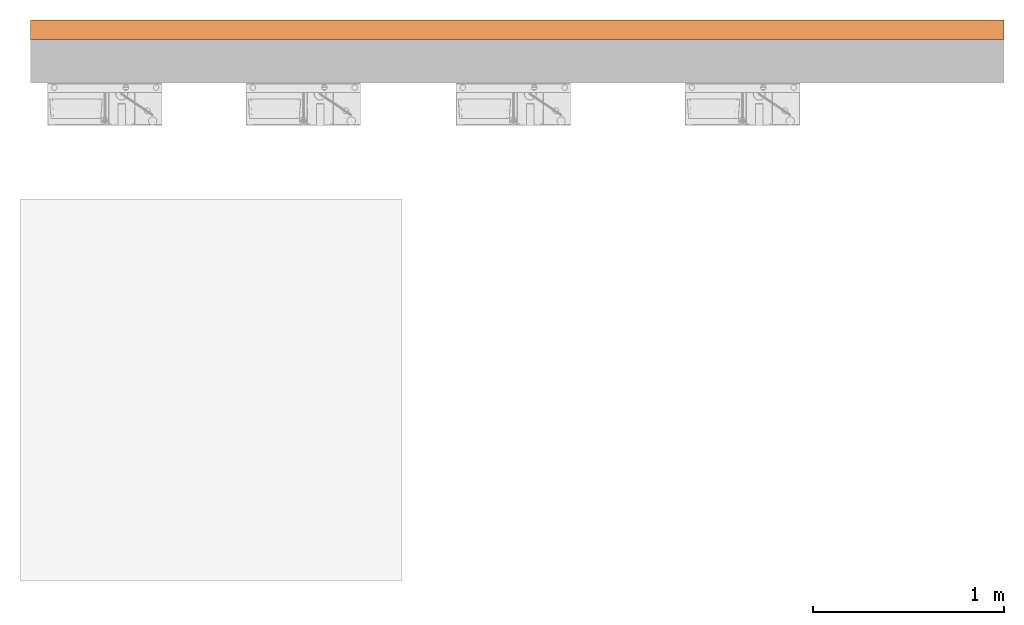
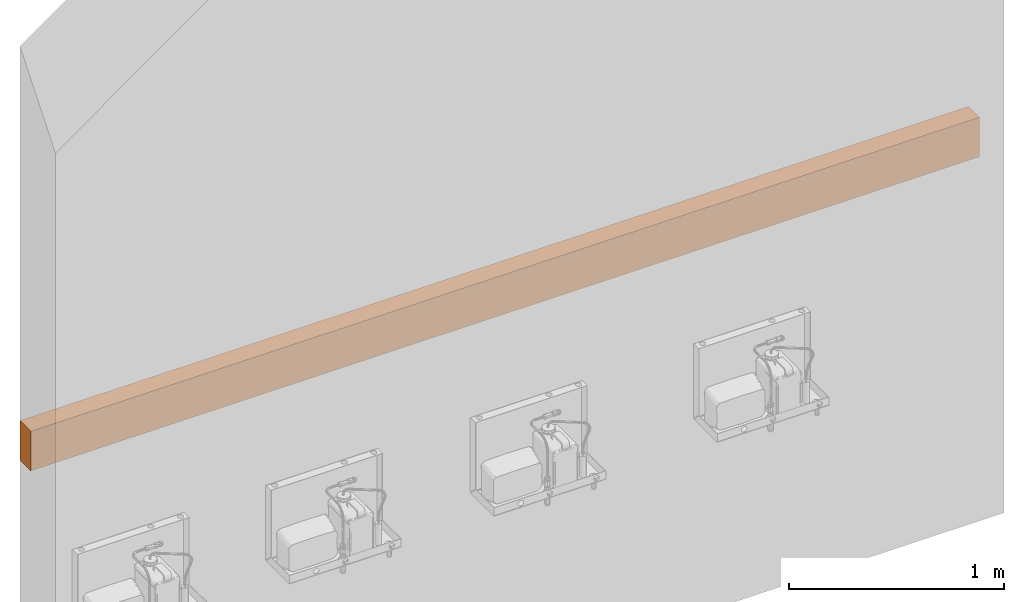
# One storey, part 2 of 2: 1 proxy.
"""IFC2X3 building model written with IfcOpenShell, lengths in millimetres."""

from ifc_helpers import new_model, entity, si_unit, converted_unit, derived_unit, direction, frame, frame_2d, origin, place, context, subcontext, project, spatial, rectangle, extrude, type_object, element, save


model = new_model("IFC2X3")

# Units and contexts
model_context = context("Model", 3, precision=0.01, world=origin(), true_north=direction((6.12303176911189e-17, 1.0)))
context_of_model = context(None, 3, precision=0.01, world=origin(), true_north=direction((6.12303176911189e-17, 1.0)))
body_context = subcontext(model_context, "Body", "Model", "MODEL_VIEW")
ifc_project = project(units=[si_unit("LENGTHUNIT", "METRE", prefix="MILLI"), si_unit("AREAUNIT", "SQUARE_METRE"), si_unit("VOLUMEUNIT", "CUBIC_METRE"), converted_unit("PLANEANGLEUNIT", "DEGREE", entity("IfcRatioMeasure", 0.0174532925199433), si_unit("PLANEANGLEUNIT", "RADIAN"), dimensions=[0, 0, 0, 0, 0, 0, 0]), si_unit("MASSUNIT", "GRAM", prefix="KILO"), derived_unit("MASSDENSITYUNIT", [(si_unit("MASSUNIT", "GRAM", prefix="KILO"), 1), (si_unit("LENGTHUNIT", "METRE"), -3)]), derived_unit("MOMENTOFINERTIAUNIT", [(si_unit("LENGTHUNIT", "METRE"), 4)]), si_unit("TIMEUNIT", "SECOND"), si_unit("FREQUENCYUNIT", "HERTZ"), si_unit("THERMODYNAMICTEMPERATUREUNIT", "DEGREE_CELSIUS"), derived_unit("THERMALTRANSMITTANCEUNIT", [(si_unit("MASSUNIT", "GRAM", prefix="KILO"), 1), (si_unit("THERMODYNAMICTEMPERATUREUNIT", "KELVIN"), -1), (si_unit("TIMEUNIT", "SECOND"), -3)]), derived_unit("VOLUMETRICFLOWRATEUNIT", [(si_unit("LENGTHUNIT", "METRE"), 3), (si_unit("TIMEUNIT", "SECOND"), -1)]), si_unit("ELECTRICCURRENTUNIT", "AMPERE"), si_unit("ELECTRICVOLTAGEUNIT", "VOLT"), si_unit("POWERUNIT", "WATT"), si_unit("FORCEUNIT", "NEWTON", prefix="KILO"), si_unit("ILLUMINANCEUNIT", "LUX"), si_unit("LUMINOUSFLUXUNIT", "LUMEN"), si_unit("LUMINOUSINTENSITYUNIT", "CANDELA"), derived_unit("USERDEFINED", [(si_unit("MASSUNIT", "GRAM", prefix="KILO"), -1), (si_unit("LENGTHUNIT", "METRE"), -2), (si_unit("TIMEUNIT", "SECOND"), 3), (si_unit("LUMINOUSFLUXUNIT", "LUMEN"), 1)]), derived_unit("LINEARVELOCITYUNIT", [(si_unit("LENGTHUNIT", "METRE"), 1), (si_unit("TIMEUNIT", "SECOND"), -1)]), si_unit("PRESSUREUNIT", "PASCAL"), derived_unit("USERDEFINED", [(si_unit("LENGTHUNIT", "METRE"), -2), (si_unit("MASSUNIT", "GRAM", prefix="KILO"), 1), (si_unit("TIMEUNIT", "SECOND"), -2)]), derived_unit("LINEARFORCEUNIT", [(si_unit("MASSUNIT", "GRAM", prefix="KILO"), 1), (si_unit("LENGTHUNIT", "METRE"), 1), (si_unit("TIMEUNIT", "SECOND"), -2), (si_unit("LENGTHUNIT", "METRE"), -1)]), derived_unit("PLANARFORCEUNIT", [(si_unit("MASSUNIT", "GRAM", prefix="KILO"), 1), (si_unit("LENGTHUNIT", "METRE"), 1), (si_unit("TIMEUNIT", "SECOND"), -2), (si_unit("LENGTHUNIT", "METRE"), -2)])], contexts=[model_context, context_of_model])

# Site, building, storey
site_placement = place(None, origin())
site = spatial("IfcSite", under=ifc_project, at=site_placement, Name="Default", CompositionType="ELEMENT")
building_placement = place(site_placement, origin())
building = spatial("IfcBuilding", under=site, at=building_placement, Name="n/a", CompositionType="ELEMENT")
storey_placement = place(building_placement, origin())
storey = spatial("IfcBuildingStorey", under=building, at=storey_placement, Name="Level 0", CompositionType="ELEMENT", Elevation=0.0)

# Proxy
building_element_proxy_type = type_object("IfcBuildingElementProxyType", PredefinedType="NOTDEFINED")
proxy_placement = place(storey_placement, origin())
element("IfcBuildingElementProxy", 1, at=proxy_placement, inside=storey, type_object=building_element_proxy_type, Name="(5)", context=body_context, shape_type="SweptSolid", body=[
    extrude(rectangle(XDim=5100.0, YDim=102.0, at=frame_2d((-2.27373675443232e-13, 0.0), x_axis=(1.0, 0.0))), frame((4222.990037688, 2398.77861690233, 1885.0)), (0.0, 0.0, 1.0), 224.9999999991),
])

save(model, "model.ifc")
